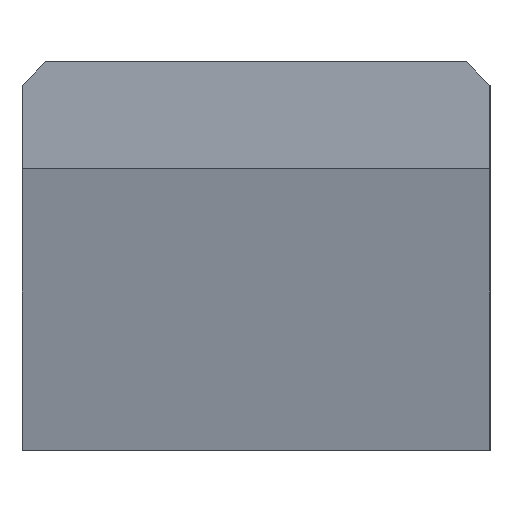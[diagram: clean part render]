
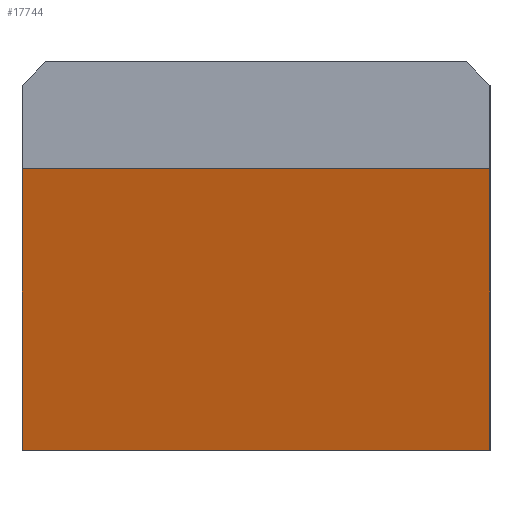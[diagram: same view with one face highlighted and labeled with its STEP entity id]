
A CAD part, left-side view. The second image highlights one B-rep face of the part: STEP entity #17744.
In plain terms, the highlighted planar face has unit normal (-0.943, 0.334, 0).
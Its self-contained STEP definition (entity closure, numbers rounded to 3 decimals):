
#180 = EDGE_CURVE ( 'NONE', #16763, #16266, #56919, .T. ) ;
#270 = VERTEX_POINT ( 'NONE', #2615 ) ;
#1304 = EDGE_CURVE ( 'NONE', #270, #16271, #8468, .T. ) ;
#1605 = AXIS2_PLACEMENT_3D ( 'NONE', #48475, #48460, #48476 ) ;
#2133 = CARTESIAN_POINT ( 'NONE',  ( 0., 0., 33. ) ) ;
#2186 = DIRECTION ( 'NONE',  ( 0., 0., -1. ) ) ;
#2615 = CARTESIAN_POINT ( 'NONE',  ( 20.893, 59., 19.5 ) ) ;
#8424 = VECTOR ( 'NONE', #9269, 1000. ) ;
#8468 = LINE ( 'NONE', #9267, #8424 ) ;
#9267 = CARTESIAN_POINT ( 'NONE',  ( 20.893, 59., 33. ) ) ;
#9269 = DIRECTION ( 'NONE',  ( 0., 0., -1. ) ) ;
#11484 = CARTESIAN_POINT ( 'NONE',  ( 20.893, 59., -16. ) ) ;
#11487 = CARTESIAN_POINT ( 'NONE',  ( 0., 0., -16. ) ) ;
#12343 = CARTESIAN_POINT ( 'NONE',  ( 0., 0., 19.5 ) ) ;
#16266 = VERTEX_POINT ( 'NONE', #11487 ) ;
#16271 = VERTEX_POINT ( 'NONE', #11484 ) ;
#16763 = VERTEX_POINT ( 'NONE', #12343 ) ;
#17744 = ADVANCED_FACE ( 'NONE', ( #65597 ), #48473, .F. ) ;
#28421 = VECTOR ( 'NONE', #30567, 1000. ) ;
#28431 = LINE ( 'NONE', #30644, #28421 ) ;
#29585 = CARTESIAN_POINT ( 'NONE',  ( 20.893, 59., 19.5 ) ) ;
#29602 = DIRECTION ( 'NONE',  ( -0.334, -0.943, 0. ) ) ;
#30567 = DIRECTION ( 'NONE',  ( -0.334, -0.943, 0. ) ) ;
#30644 = CARTESIAN_POINT ( 'NONE',  ( 0., 0., -16. ) ) ;
#46940 = EDGE_LOOP ( 'NONE', ( #68771, #68756, #68690, #68778 ) ) ;
#48460 = DIRECTION ( 'NONE',  ( 0.943, -0.334, 0. ) ) ;
#48473 = PLANE ( 'NONE',  #1605 ) ;
#48475 = CARTESIAN_POINT ( 'NONE',  ( 0., 0., 33. ) ) ;
#48476 = DIRECTION ( 'NONE',  ( 0.334, 0.943, 0. ) ) ;
#50580 = EDGE_CURVE ( 'NONE', #16271, #16266, #28431, .T. ) ;
#51336 = EDGE_CURVE ( 'NONE', #270, #16763, #60170, .T. ) ;
#56919 = LINE ( 'NONE', #2133, #56925 ) ;
#56925 = VECTOR ( 'NONE', #2186, 1000. ) ;
#60170 = LINE ( 'NONE', #29585, #60180 ) ;
#60180 = VECTOR ( 'NONE', #29602, 1000. ) ;
#65597 = FACE_OUTER_BOUND ( 'NONE', #46940, .T. ) ;
#68690 = ORIENTED_EDGE ( 'NONE', *, *, #1304, .T. ) ;
#68756 = ORIENTED_EDGE ( 'NONE', *, *, #51336, .F. ) ;
#68771 = ORIENTED_EDGE ( 'NONE', *, *, #180, .F. ) ;
#68778 = ORIENTED_EDGE ( 'NONE', *, *, #50580, .T. ) ;
